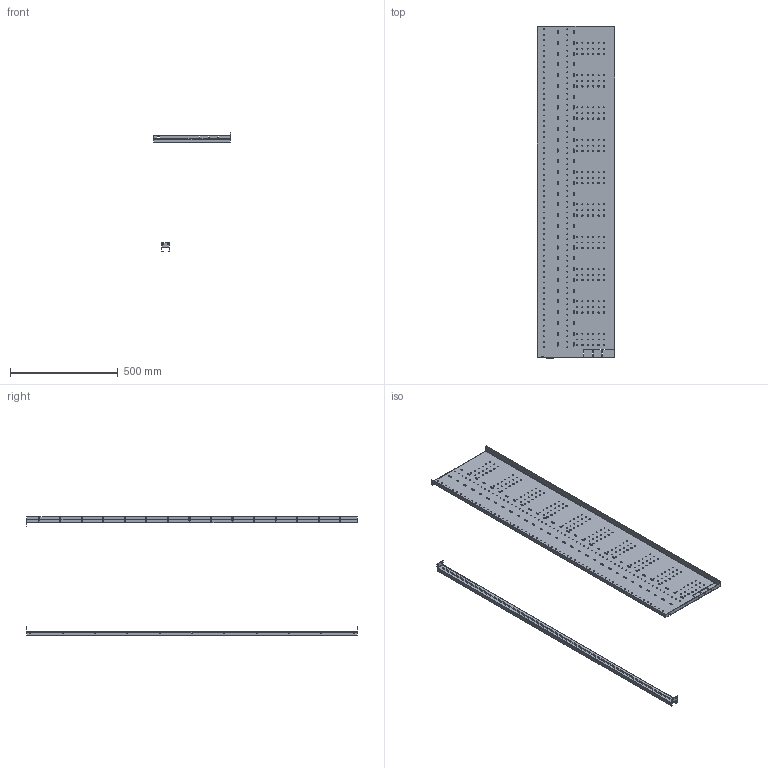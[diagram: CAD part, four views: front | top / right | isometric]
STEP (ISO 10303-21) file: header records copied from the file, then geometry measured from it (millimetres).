
FILE_DESCRIPTION(('CAx-IF Rec.Pracs.---Model Styling and Organization---1.2---2011-12-15','CAx-IF Rec.Pracs.---Geometric and Assembly Validation Properties---4.1---2014-06-16','CAx-IF Rec.Pracs.---PMI Polyline Presentation---2.0---2013-05-24'),'2;1');
FILE_NAME('R5M2CCR30M10.stp','2021-05-05T11:51:51+03:00',(''),(''),'STEP Interface 4.4 by CT CoreTechnologie','3D_Evolution4.4 by CT CoreTechnologie','');
FILE_SCHEMA(('AUTOMOTIVE_DESIGN { 1 0 10303 214 1 1 1 1 }'));
Length unit declared in the file: millimetre
Products named in the file (3): R5M2CCR30M10; RB.1402.00.00.0_-02; RB.0838.00.00.0_-02
Assembly tree (2 placements, depth 2):
  R5M2CCR30M10
    RB.1402.00.00.0_-02
    RB.0838.00.00.0_-02
Bounding box: 359.5 x 1540 x 552 mm (x, y, z)
Surface area: 1513519.4 mm2 (no closed solid volume)
Topology: 0 solids, 2 shells, 1473 faces, 4401 edges, 2922 vertices
Faces by surface type: cylinder 1110, plane 359, bspline 4
Entity records: 53310 total; most frequent: DIRECTION 9552, CARTESIAN_POINT 8951, ORIENTED_EDGE 8802, EDGE_CURVE 4401, AXIS2_PLACEMENT_3D 3687, VERTEX_POINT 2924, EDGE_LOOP 2677, CIRCLE 2217
